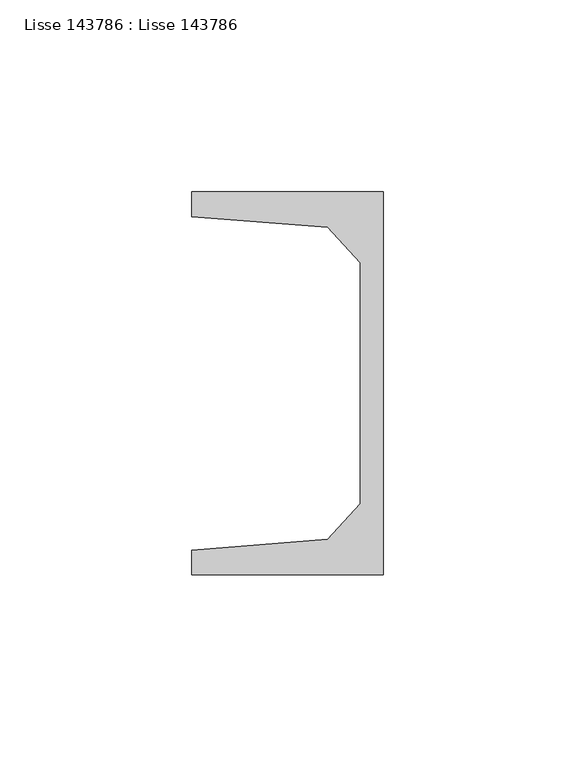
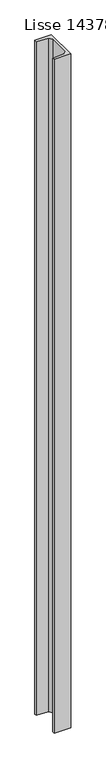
"""IFC4 building model written with IfcOpenShell, lengths in millimetres: beam geometry, Lisse 143786 : Lisse 143786."""

from ifc_helpers import new_model, si_unit, origin, origin_with_axes, place, context, project, spatial, polyline, outline, extrude, source, transform, mapped, element, save


def lisse_143786_lisse_143786_fd7d0ed2(model_context):
    return source(origin(), model_context, "Body", "SweptSolid", [
        extrude(outline(polyline([(13279.9999999, 95.0), (13329.9999999, 95.0), (13329.9999999, -5.0), (13279.9999999, -5.0), (13279.9999999, 1.5), (13315.4999999, 4.34), (13323.9999999, 13.52), (13323.9999999, 76.48), (13315.4999999, 85.66), (13279.9999999, 88.5), (13279.9999999, 95.0)])), origin_with_axes(), (0.0, 0.0, 1.0), 2150.0),
    ])


if __name__ == "__main__":
    model = new_model("IFC4")
    model_context = context("Model", 3, world=origin())
    ifc_project = project(units=[si_unit("LENGTHUNIT", "METRE", prefix="MILLI")], contexts=[model_context])
    site = spatial("IfcSite", under=ifc_project)
    building = spatial("IfcBuilding", under=site)
    placement = place(None, origin())
    lisse_143786_lisse_143786_shape = lisse_143786_lisse_143786_fd7d0ed2(model_context)
    element("IfcBeam", 1, ObjectType="Lisse 143786 : Lisse 143786", at=placement, inside=building, context=model_context, shape_type="MappedRepresentation", body=[
        mapped(lisse_143786_lisse_143786_shape, transform((0.0, 0.0, 0.0), x_axis=(1.0, 0.0, 0.0), y_axis=(0.0, 1.0, 0.0), z_axis=(0.0, 0.0, 1.0))),
    ])
    save(model, "model.ifc")
